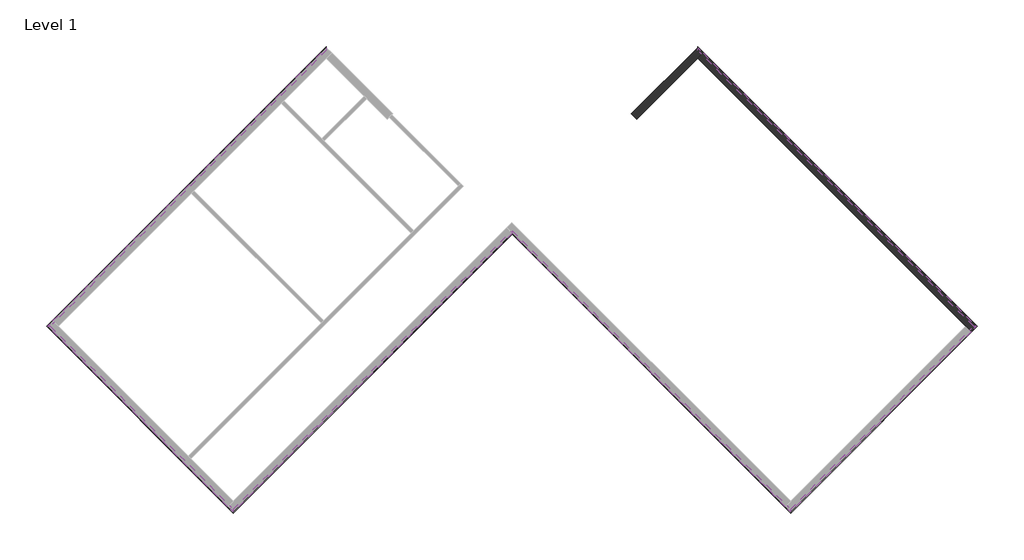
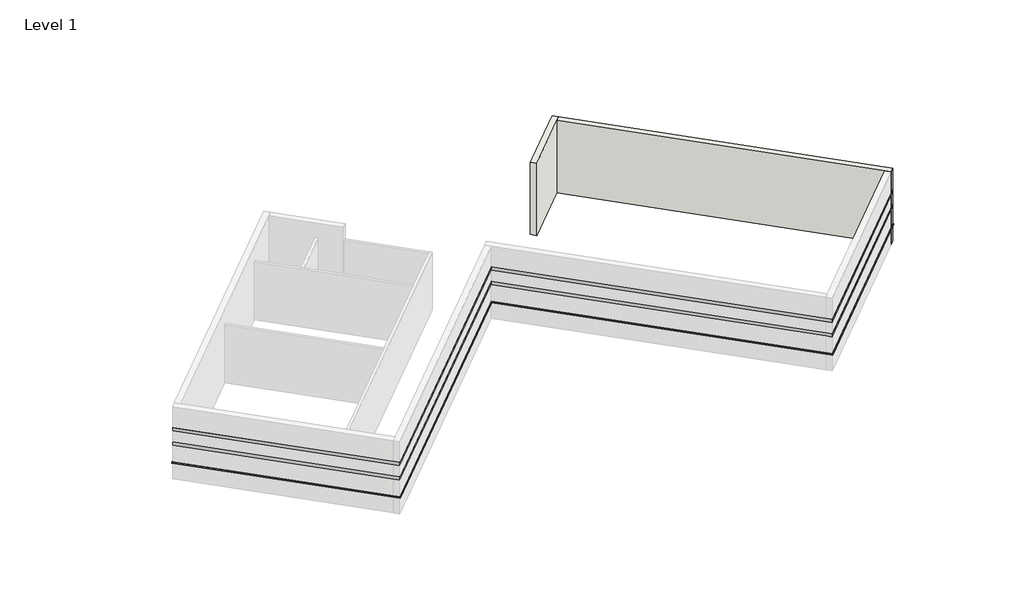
# One storey, part 2 of 2: 18 proxies, 2 walls.
"""IFC4 building model written with IfcOpenShell, lengths in millimetres."""

from ifc_helpers import new_model, si_unit, frame, origin, place, context, project, spatial, polyline, circle_curve, faceted_brep, element, save
from ifc_brep_helpers import plane_surface, cylinder_surface, revolved_surface, advanced_brep

model = new_model("IFC4")

# Units and contexts
model_context = context("Model", 3, world=origin())
ifc_project = project(units=[si_unit("LENGTHUNIT", "METRE", prefix="MILLI")], contexts=[model_context])

# Site, building, storey
site = spatial("IfcSite", under=ifc_project)
building = spatial("IfcBuilding", under=site)
storey = spatial("IfcBuildingStorey", under=building, Name="Level 1", Elevation=0.0)

# Proxies
placement = place(None, origin())
element("IfcBuildingElementProxy", 1, Name="Wall Sweeps", at=placement, inside=storey, context=model_context, shape_type="Brep", body=[
    faceted_brep([(5178.0352806, 10812.8792927, 1085.85), (5178.0352806, 10943.0930065, 1085.85), (5178.0352806, 10992.4844151, 1041.4), (5178.0352806, 10992.4844151, 1016.0), (5178.0352806, 10812.8792927, 1016.0), (17979.3903812, -1988.4758079, 1085.85), (17979.3903812, -1988.4758079, 1016.0), (18158.9955036, -1988.4758079, 1016.0), (18158.9955036, -1988.4758079, 1041.4), (18109.604095, -1988.4758079, 1085.85), (5362.1305311, 10628.7840422, 1085.85), (5362.1305311, 10628.7840422, 1016.0)], [[[0, 1, 2, 3, 4]], [[5, 6, 7, 8, 9]], [[1, 0, 10, 5, 9]], [[2, 1, 9, 8]], [[3, 2, 8, 7]], [[4, 3, 7, 6, 11]], [[0, 4, 11, 6, 5, 10]]]),
])
element("IfcBuildingElementProxy", 2, Name="Wall Sweeps", at=placement, inside=storey, context=model_context, shape_type="Brep", body=[
    faceted_brep([(5178.0352806, 10943.0930065, 2336.8), (5178.0352806, 10943.0930065, 2133.6), (5178.0352806, 10812.8792927, 2133.6), (5178.0352806, 10812.8792927, 2336.8), (18109.604095, -1988.4758079, 2336.8), (17979.3903812, -1988.4758079, 2336.8), (17979.3903812, -1988.4758079, 2133.6), (18109.604095, -1988.4758079, 2133.6), (5427.237388, 10693.8908991, 2336.8), (5427.237388, 10693.8908991, 2133.6), (5362.1305311, 10628.7840422, 2133.6), (5362.1305311, 10628.7840422, 2336.8)], [[[0, 1, 2, 3]], [[4, 5, 6, 7]], [[1, 0, 8, 4, 7, 9]], [[2, 1, 9, 7, 6, 10]], [[3, 2, 10, 6, 5, 11]], [[0, 3, 11, 5, 4, 8]]]),
])
element("IfcBuildingElementProxy", 3, Name="Wall Sweeps", at=placement, inside=storey, context=model_context, shape_type="Brep", body=[
    faceted_brep([(5178.0352806, 10943.0930065, 3251.2), (5178.0352806, 10943.0930065, 3048.0), (5178.0352806, 10812.8792927, 3048.0), (5178.0352806, 10812.8792927, 3251.2), (18109.604095, -1988.4758079, 3251.2), (17979.3903812, -1988.4758079, 3251.2), (17979.3903812, -1988.4758079, 3048.0), (18109.604095, -1988.4758079, 3048.0), (5427.237388, 10693.8908991, 3251.2), (5427.237388, 10693.8908991, 3048.0), (5362.1305311, 10628.7840422, 3048.0), (5362.1305311, 10628.7840422, 3251.2)], [[[0, 1, 2, 3]], [[4, 5, 6, 7]], [[1, 0, 8, 4, 7, 9]], [[2, 1, 9, 7, 6, 10]], [[3, 2, 10, 6, 5, 11]], [[0, 3, 11, 5, 4, 8]]]),
])
element("IfcBuildingElementProxy", 4, Name="Wall Sweeps", at=placement, inside=storey, context=model_context, shape_type="Brep", body=[
    faceted_brep([(17979.3903812, -1988.4758079, 1085.85), (18109.604095, -1988.4758079, 1085.85), (18158.9955036, -1988.4758079, 1041.4), (18158.9955036, -1988.4758079, 1016.0), (17979.3903812, -1988.4758079, 1016.0), (9488.5582187, -10479.3079703, 1085.85), (9488.5582187, -10479.3079703, 1016.0), (9488.5582187, -10658.9130928, 1016.0), (9488.5582187, -10658.9130928, 1041.4), (9488.5582187, -10609.5216841, 1085.85), (17795.2951307, -2172.5710583, 1085.85), (17795.2951307, -2172.5710583, 1016.0)], [[[0, 1, 2, 3, 4]], [[5, 6, 7, 8, 9]], [[1, 0, 10, 5, 9]], [[2, 1, 9, 8]], [[3, 2, 8, 7]], [[4, 3, 7, 6, 11]], [[0, 4, 11, 6, 5, 10]]]),
])
element("IfcBuildingElementProxy", 5, Name="Wall Sweeps", at=placement, inside=storey, context=model_context, shape_type="Brep", body=[
    faceted_brep([(18109.604095, -1988.4758079, 2336.8), (18109.604095, -1988.4758079, 2133.6), (17979.3903812, -1988.4758079, 2133.6), (17979.3903812, -1988.4758079, 2336.8), (9488.5582187, -10609.5216841, 2336.8), (9488.5582187, -10479.3079703, 2336.8), (9488.5582187, -10479.3079703, 2133.6), (9488.5582187, -10609.5216841, 2133.6), (17860.4019876, -2237.6779152, 2336.8), (17860.4019876, -2237.6779152, 2133.6), (17795.2951307, -2172.5710583, 2133.6), (17795.2951307, -2172.5710583, 2336.8)], [[[0, 1, 2, 3]], [[4, 5, 6, 7]], [[1, 0, 8, 4, 7, 9]], [[2, 1, 9, 7, 6, 10]], [[3, 2, 10, 6, 5, 11]], [[0, 3, 11, 5, 4, 8]]]),
])
element("IfcBuildingElementProxy", 6, Name="Wall Sweeps", at=placement, inside=storey, context=model_context, shape_type="Brep", body=[
    faceted_brep([(18109.604095, -1988.4758079, 3251.2), (18109.604095, -1988.4758079, 3048.0), (17979.3903812, -1988.4758079, 3048.0), (17979.3903812, -1988.4758079, 3251.2), (9488.5582187, -10609.5216841, 3251.2), (9488.5582187, -10479.3079703, 3251.2), (9488.5582187, -10479.3079703, 3048.0), (9488.5582187, -10609.5216841, 3048.0), (17860.4019876, -2237.6779152, 3251.2), (17860.4019876, -2237.6779152, 3048.0), (17795.2951307, -2172.5710583, 3048.0), (17795.2951307, -2172.5710583, 3251.2)], [[[0, 1, 2, 3]], [[4, 5, 6, 7]], [[1, 0, 8, 4, 7, 9]], [[2, 1, 9, 7, 6, 10]], [[3, 2, 10, 6, 5, 11]], [[0, 3, 11, 5, 4, 8]]]),
])
element("IfcBuildingElementProxy", 7, Name="Wall Sweeps", at=placement, inside=storey, context=model_context, shape_type="Brep", body=[
    faceted_brep([(9488.5582187, -10479.3079703, 1085.85), (9488.5582187, -10609.5216841, 1085.85), (9488.5582187, -10658.9130928, 1041.4), (9488.5582187, -10658.9130928, 1016.0), (9488.5582187, -10479.3079703, 1016.0), (-3443.0105956, 2452.260844, 1085.85), (-3443.0105956, 2452.260844, 1016.0), (-3443.0105956, 2272.6557216, 1016.0), (-3443.0105956, 2272.6557216, 1041.4), (-3443.0105956, 2322.0471303, 1085.85), (9304.4629682, -10295.2127199, 1085.85), (9304.4629682, -10295.2127199, 1016.0)], [[[0, 1, 2, 3, 4]], [[5, 6, 7, 8, 9]], [[1, 0, 10, 5, 9]], [[2, 1, 9, 8]], [[3, 2, 8, 7]], [[4, 3, 7, 6, 11]], [[0, 4, 11, 6, 5, 10]]]),
])
element("IfcBuildingElementProxy", 8, Name="Wall Sweeps", at=placement, inside=storey, context=model_context, shape_type="Brep", body=[
    faceted_brep([(9488.5582187, -10609.5216841, 2336.8), (9488.5582187, -10609.5216841, 2133.6), (9488.5582187, -10479.3079703, 2133.6), (9488.5582187, -10479.3079703, 2336.8), (-3443.0105956, 2322.0471303, 2336.8), (-3443.0105956, 2452.260844, 2336.8), (-3443.0105956, 2452.260844, 2133.6), (-3443.0105956, 2322.0471303, 2133.6), (9239.3561114, -10360.3195767, 2336.8), (9239.3561114, -10360.3195767, 2133.6), (9304.4629682, -10295.2127199, 2133.6), (9304.4629682, -10295.2127199, 2336.8)], [[[0, 1, 2, 3]], [[4, 5, 6, 7]], [[1, 0, 8, 4, 7, 9]], [[2, 1, 9, 7, 6, 10]], [[3, 2, 10, 6, 5, 11]], [[0, 3, 11, 5, 4, 8]]]),
])
element("IfcBuildingElementProxy", 9, Name="Wall Sweeps", at=placement, inside=storey, context=model_context, shape_type="Brep", body=[
    faceted_brep([(9488.5582187, -10609.5216841, 3251.2), (9488.5582187, -10609.5216841, 3048.0), (9488.5582187, -10479.3079703, 3048.0), (9488.5582187, -10479.3079703, 3251.2), (-3443.0105956, 2322.0471303, 3251.2), (-3443.0105956, 2452.260844, 3251.2), (-3443.0105956, 2452.260844, 3048.0), (-3443.0105956, 2322.0471303, 3048.0), (9239.3561114, -10360.3195767, 3251.2), (9239.3561114, -10360.3195767, 3048.0), (9304.4629682, -10295.2127199, 3048.0), (9304.4629682, -10295.2127199, 3251.2)], [[[0, 1, 2, 3]], [[4, 5, 6, 7]], [[1, 0, 8, 4, 7, 9]], [[2, 1, 9, 7, 6, 10]], [[3, 2, 10, 6, 5, 11]], [[0, 3, 11, 5, 4, 8]]]),
])
element("IfcBuildingElementProxy", 10, Name="Wall Sweeps", at=placement, inside=storey, context=model_context, shape_type="Brep", body=[
    faceted_brep([(-3443.0105956, 2452.260844, 1085.85), (-3443.0105956, 2322.0471303, 1085.85), (-3443.0105956, 2272.6557216, 1041.4), (-3443.0105956, 2272.6557216, 1016.0), (-3443.0105956, 2452.260844, 1016.0), (-16374.5794099, -10479.3079703, 1085.85), (-16374.5794099, -10479.3079703, 1016.0), (-16374.5794099, -10658.9130928, 1016.0), (-16374.5794099, -10658.9130928, 1041.4), (-16374.5794099, -10609.5216841, 1085.85), (-3508.1174525, 2387.1539871, 1085.85), (-3508.1174525, 2387.1539871, 1016.0)], [[[0, 1, 2, 3, 4]], [[5, 6, 7, 8, 9]], [[1, 0, 10, 5, 9]], [[2, 1, 9, 8]], [[3, 2, 8, 7]], [[4, 3, 7, 6, 11]], [[0, 4, 11, 6, 5, 10]]]),
])
element("IfcBuildingElementProxy", 11, Name="Wall Sweeps", at=placement, inside=storey, context=model_context, shape_type="Brep", body=[
    faceted_brep([(-3443.0105956, 2322.0471303, 2336.8), (-3443.0105956, 2322.0471303, 2133.6), (-3443.0105956, 2452.260844, 2133.6), (-3443.0105956, 2452.260844, 2336.8), (-16374.5794099, -10609.5216841, 2336.8), (-16374.5794099, -10479.3079703, 2336.8), (-16374.5794099, -10479.3079703, 2133.6), (-16374.5794099, -10609.5216841, 2133.6), (-3508.1174525, 2387.1539871, 2133.6), (-3508.1174525, 2387.1539871, 2336.8)], [[[0, 1, 2, 3]], [[4, 5, 6, 7]], [[1, 0, 4, 7]], [[2, 1, 7, 6, 8]], [[3, 2, 8, 6, 5, 9]], [[0, 3, 9, 5, 4]]]),
])
element("IfcBuildingElementProxy", 12, Name="Wall Sweeps", at=placement, inside=storey, context=model_context, shape_type="Brep", body=[
    faceted_brep([(-3443.0105956, 2322.0471303, 3251.2), (-3443.0105956, 2322.0471303, 3048.0), (-3443.0105956, 2452.260844, 3048.0), (-3443.0105956, 2452.260844, 3251.2), (-16374.5794099, -10609.5216841, 3251.2), (-16374.5794099, -10479.3079703, 3251.2), (-16374.5794099, -10479.3079703, 3048.0), (-16374.5794099, -10609.5216841, 3048.0), (-3508.1174525, 2387.1539871, 3048.0), (-3508.1174525, 2387.1539871, 3251.2)], [[[0, 1, 2, 3]], [[4, 5, 6, 7]], [[1, 0, 4, 7]], [[2, 1, 7, 6, 8]], [[3, 2, 8, 6, 5, 9]], [[0, 3, 9, 5, 4]]]),
])
element("IfcBuildingElementProxy", 13, Name="Wall Sweeps", at=placement, inside=storey, context=model_context, shape_type="Brep", body=[
    faceted_brep([(-16374.5794099, -10479.3079703, 1085.85), (-16374.5794099, -10609.5216841, 1085.85), (-16374.5794099, -10658.9130928, 1041.4), (-16374.5794099, -10658.9130928, 1016.0), (-16374.5794099, -10479.3079703, 1016.0), (-24865.4115724, -1988.4758079, 1085.85), (-24865.4115724, -1988.4758079, 1016.0), (-25045.0166948, -1988.4758079, 1016.0), (-25045.0166948, -1988.4758079, 1041.4), (-24995.6252862, -1988.4758079, 1085.85), (-16558.6746604, -10295.2127199, 1085.85), (-16558.6746604, -10295.2127199, 1016.0)], [[[0, 1, 2, 3, 4]], [[5, 6, 7, 8, 9]], [[1, 0, 10, 5, 9]], [[2, 1, 9, 8]], [[3, 2, 8, 7]], [[4, 3, 7, 6, 11]], [[0, 4, 11, 6, 5, 10]]]),
])
element("IfcBuildingElementProxy", 14, Name="Wall Sweeps", at=placement, inside=storey, context=model_context, shape_type="Brep", body=[
    faceted_brep([(-16374.5794099, -10609.5216841, 2336.8), (-16374.5794099, -10609.5216841, 2133.6), (-16374.5794099, -10479.3079703, 2133.6), (-16374.5794099, -10479.3079703, 2336.8), (-24995.6252862, -1988.4758079, 2336.8), (-24865.4115724, -1988.4758079, 2336.8), (-24865.4115724, -1988.4758079, 2133.6), (-24995.6252862, -1988.4758079, 2133.6), (-16623.7815173, -10360.3195767, 2336.8), (-16623.7815173, -10360.3195767, 2133.6), (-16558.6746604, -10295.2127199, 2133.6), (-16558.6746604, -10295.2127199, 2336.8)], [[[0, 1, 2, 3]], [[4, 5, 6, 7]], [[1, 0, 8, 4, 7, 9]], [[2, 1, 9, 7, 6, 10]], [[3, 2, 10, 6, 5, 11]], [[0, 3, 11, 5, 4, 8]]]),
])
element("IfcBuildingElementProxy", 15, Name="Wall Sweeps", at=placement, inside=storey, context=model_context, shape_type="Brep", body=[
    faceted_brep([(-16374.5794099, -10609.5216841, 3251.2), (-16374.5794099, -10609.5216841, 3048.0), (-16374.5794099, -10479.3079703, 3048.0), (-16374.5794099, -10479.3079703, 3251.2), (-24995.6252862, -1988.4758079, 3251.2), (-24865.4115724, -1988.4758079, 3251.2), (-24865.4115724, -1988.4758079, 3048.0), (-24995.6252862, -1988.4758079, 3048.0), (-16623.7815173, -10360.3195767, 3251.2), (-16623.7815173, -10360.3195767, 3048.0), (-16558.6746604, -10295.2127199, 3048.0), (-16558.6746604, -10295.2127199, 3251.2)], [[[0, 1, 2, 3]], [[4, 5, 6, 7]], [[1, 0, 8, 4, 7, 9]], [[2, 1, 9, 7, 6, 10]], [[3, 2, 10, 6, 5, 11]], [[0, 3, 11, 5, 4, 8]]]),
])
element("IfcBuildingElementProxy", 16, Name="Wall Sweeps", at=placement, inside=storey, context=model_context, shape_type="Brep", body=[
    faceted_brep([(-24865.4115724, -1988.4758079, 1085.85), (-24995.6252862, -1988.4758079, 1085.85), (-25045.0166948, -1988.4758079, 1041.4), (-25045.0166948, -1988.4758079, 1016.0), (-24865.4115724, -1988.4758079, 1016.0), (-12064.0564718, 10812.8792927, 1085.85), (-12064.0564718, 10812.8792927, 1016.0), (-12064.0564718, 10992.4844151, 1016.0), (-12064.0564718, 10992.4844151, 1041.4), (-12064.0564718, 10943.0930065, 1085.85), (-24681.3163219, -1804.3805574, 1085.85), (-24681.3163219, -1804.3805574, 1016.0)], [[[0, 1, 2, 3, 4]], [[5, 6, 7, 8, 9]], [[1, 0, 10, 5, 9]], [[2, 1, 9, 8]], [[3, 2, 8, 7]], [[4, 3, 7, 6, 11]], [[0, 4, 11, 6, 5, 10]]]),
])
element("IfcBuildingElementProxy", 17, Name="Wall Sweeps", at=placement, inside=storey, context=model_context, shape_type="Brep", body=[
    faceted_brep([(-24995.6252862, -1988.4758079, 2336.8), (-24995.6252862, -1988.4758079, 2133.6), (-24865.4115724, -1988.4758079, 2133.6), (-24865.4115724, -1988.4758079, 2336.8), (-12064.0564718, 10943.0930065, 2336.8), (-12064.0564718, 10812.8792927, 2336.8), (-12064.0564718, 10812.8792927, 2133.6), (-12064.0564718, 10943.0930065, 2133.6), (-24746.4231788, -1739.2737005, 2336.8), (-24746.4231788, -1739.2737005, 2133.6), (-24681.3163219, -1804.3805574, 2133.6), (-24681.3163219, -1804.3805574, 2336.8)], [[[0, 1, 2, 3]], [[4, 5, 6, 7]], [[1, 0, 8, 4, 7, 9]], [[2, 1, 9, 7, 6, 10]], [[3, 2, 10, 6, 5, 11]], [[0, 3, 11, 5, 4, 8]]]),
])
element("IfcBuildingElementProxy", 18, Name="Wall Sweeps", at=placement, inside=storey, context=model_context, shape_type="Brep", body=[
    faceted_brep([(-24995.6252862, -1988.4758079, 3251.2), (-24995.6252862, -1988.4758079, 3048.0), (-24865.4115724, -1988.4758079, 3048.0), (-24865.4115724, -1988.4758079, 3251.2), (-12064.0564718, 10943.0930065, 3251.2), (-12064.0564718, 10812.8792927, 3251.2), (-12064.0564718, 10812.8792927, 3048.0), (-12064.0564718, 10943.0930065, 3048.0), (-24746.4231788, -1739.2737005, 3251.2), (-24746.4231788, -1739.2737005, 3048.0), (-24681.3163219, -1804.3805574, 3048.0), (-24681.3163219, -1804.3805574, 3251.2)], [[[0, 1, 2, 3]], [[4, 5, 6, 7]], [[1, 0, 8, 4, 7, 9]], [[2, 1, 9, 7, 6, 10]], [[3, 2, 10, 6, 5, 11]], [[0, 3, 11, 5, 4, 8]]]),
])

# Walls
element("IfcWall", 19, ObjectType="Exterior - Split Face and CMU on Mtl. Stud", at=placement, inside=storey, context=model_context, shape_type="AdvancedBrep", body=[
    advanced_brep(
    [(2346.973313, 7613.6268242, 0.0), (5178.0352806, 10444.6887918, 0.0), (5427.237388, 10693.8908991, 0.0), (5427.237388, 10693.8908991, 1016.0), (5362.1305311, 10628.7840422, 1016.0), (5362.1305311, 10628.7840422, 1085.85), (5427.237388, 10693.8908991, 1085.85), (5427.237388, 10693.8908991, 2133.6), (5362.1305311, 10628.7840422, 2133.6), (5362.1305311, 10628.7840422, 2336.8), (5427.237388, 10693.8908991, 2336.8), (5427.237388, 10693.8908991, 3048.0), (5362.1305311, 10628.7840422, 3048.0), (5362.1305311, 10628.7840422, 3251.2), (5427.237388, 10693.8908991, 3251.2), (5427.237388, 10693.8908991, 4572.0), (5178.0352806, 10444.6887918, 4572.0), (2346.973313, 7613.6268242, 4572.0), (2102.2428123, 7867.3005381, 4572.0), (2351.4472641, 8116.50499, 4572.0), (5178.0352806, 10943.0930065, 4572.0), (5178.0352806, 10943.0930065, 3251.2), (2351.4472641, 8116.50499, 3251.2), (2286.3398143, 8051.3975402, 3251.2), (2286.3398143, 8051.3975402, 3048.0), (2351.4472641, 8116.50499, 3048.0), (5178.0352806, 10943.0930065, 3048.0), (5178.0352806, 10943.0930065, 2336.8), (2351.4472641, 8116.50499, 2336.8), (2286.3398143, 8051.3975402, 2336.8), (2286.3398143, 8051.3975402, 2133.6), (2351.4472641, 8116.50499, 2133.6), (5178.0352806, 10943.0930065, 2133.6), (5178.0352806, 10943.0930065, 1085.85), (2351.4472641, 8116.50499, 1085.85), (2286.3398143, 8051.3975402, 1085.85), (2286.3398143, 8051.3975402, 1016.0), (2351.4472641, 8116.50499, 1016.0), (5178.0352806, 10943.0930065, 1016.0), (5178.0352806, 10943.0930065, 0.0), (2351.4472641, 8116.50499, 0.0), (2102.2428123, 7867.3005381, 0.0), (2167.2578198, 7802.1018319, 0.0), (5243.1421375, 10877.9861496, 0.0), (2351.3577606, 7986.2017727, 1016.0), (2351.3577606, 7986.2017727, 1085.85), (5178.0352806, 10812.8792927, 1085.85), (5178.0352806, 10812.8792927, 1016.0), (2351.3577606, 7986.2017727, 2133.6), (2351.3577606, 7986.2017727, 2336.8), (5178.0352806, 10812.8792927, 2336.8), (5178.0352806, 10812.8792927, 2133.6), (5178.0352806, 10812.8792927, 3048.0), (2351.3577606, 7986.2017727, 3048.0), (2351.3577606, 7986.2017727, 3251.2), (5178.0352806, 10812.8792927, 3251.2)],
    [
        (0, 1),
        (1, 2),
        (2, 3),
        (3, 4),
        (4, 5),
        (5, 6),
        (6, 7),
        (7, 8),
        (8, 9),
        (9, 10),
        (10, 11),
        (11, 12),
        (12, 13),
        (13, 14),
        (14, 15),
        (15, 16),
        (16, 17),
        (17, 0),
        (18, 19),
        (19, 20),
        (20, 21),
        (21, 22),
        (22, 23),
        (23, 24),
        (24, 25),
        (25, 26),
        (26, 27),
        (27, 28),
        (28, 29),
        (29, 30),
        (30, 31),
        (31, 32),
        (32, 33),
        (33, 34),
        (34, 35),
        (35, 36),
        (36, 37),
        (37, 38),
        (38, 39),
        (39, 40),
        (40, 41),
        (41, 18),
        (15, 20),
        (18, 17, circle_curve(frame((-3443.0105956, 2272.6557216, 4572.0), z_axis=(0.0, 0.0, -1.0), x_axis=(1.0, 0.0, 0.0)), 7877.175)),
        (0, 42, circle_curve(frame((-3443.0105956, 2272.6557216, 0.0), z_axis=(0.0, 0.0, 1.0), x_axis=(1.0, 0.0, 0.0)), 7877.175)),
        (42, 43),
        (43, 2),
        (44, 45),
        (45, 46),
        (46, 47),
        (47, 44),
        (48, 49),
        (49, 50),
        (50, 51),
        (51, 48),
        (52, 53),
        (53, 54),
        (54, 55),
        (55, 52),
        (14, 21),
        (43, 39),
        (38, 3),
        (6, 33),
        (32, 7),
        (10, 27),
        (26, 11),
        (46, 5),
        (4, 47),
        (50, 9),
        (8, 51),
        (55, 13),
        (12, 52),
        (41, 42, circle_curve(frame((-3443.0105956, 2272.6557216, 0.0), z_axis=(0.0, 0.0, -1.0), x_axis=(1.0, 0.0, 0.0)), 7877.175)),
        (45, 35, circle_curve(frame((-3443.0105956, 2272.6557216, 1085.85), z_axis=(0.0, 0.0, 1.0), x_axis=(-0.7040995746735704, 0.7101012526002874, 0.0)), 8137.525)),
        (36, 44, circle_curve(frame((-3443.0105956, 2272.6557216, 1016.0), z_axis=(0.0, 0.0, -1.0), x_axis=(-0.7040995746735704, 0.7101012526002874, 0.0)), 8137.525)),
        (30, 48, circle_curve(frame((-3443.0105956, 2272.6557216, 2133.6), z_axis=(0.0, 0.0, -1.0), x_axis=(-0.7040995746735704, 0.7101012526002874, 0.0)), 8137.525)),
        (29, 49, circle_curve(frame((-3443.0105956, 2272.6557216, 2336.8), z_axis=(0.0, 0.0, -1.0), x_axis=(-0.7040995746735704, 0.7101012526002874, 0.0)), 8137.525)),
        (24, 53, circle_curve(frame((-3443.0105956, 2272.6557216, 3048.0), z_axis=(0.0, 0.0, -1.0), x_axis=(-0.7040995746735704, 0.7101012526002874, 0.0)), 8137.525)),
        (23, 54, circle_curve(frame((-3443.0105956, 2272.6557216, 3251.2), z_axis=(0.0, 0.0, -1.0), x_axis=(-0.7040995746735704, 0.7101012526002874, 0.0)), 8137.525)),
    ],
    [
        plane_surface(frame((2409.8713313, 7676.5248424, 0.0), z_axis=(0.7071067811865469, -0.7071067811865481, 0.0), x_axis=(0.7071067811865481, 0.7071067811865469, 0.0))),
        plane_surface(frame((2160.6692239, 7925.7269498, 0.0), z_axis=(-0.7071067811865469, 0.7071067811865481, 0.0), x_axis=(-0.7071067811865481, -0.7071067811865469, 0.0))),
        plane_surface(frame((5302.6363343, 10569.2898454, 4572.0), z_axis=(0.0, 0.0, 1.0), x_axis=(-0.707106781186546, 0.7071067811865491, 0.0))),
        plane_surface(frame((2475.22429, 7741.8778012, 0.0), z_axis=(0.0, 0.0, -1.0), x_axis=(-0.7071067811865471, 0.7071067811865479, 0.0))),
        plane_surface(frame((2351.3577606, 7986.2017727, 1016.0), z_axis=(-0.7071067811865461, 0.7071067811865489, 0.0), x_axis=(0.7071067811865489, 0.7071067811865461, 0.0))),
        plane_surface(frame((2351.3577606, 7986.2017727, 2133.6), z_axis=(-0.7071067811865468, 0.7071067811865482, 0.0), x_axis=(0.7071067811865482, 0.7071067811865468, 0.0))),
        plane_surface(frame((2351.3577606, 7986.2017727, 3048.0), z_axis=(-0.7071067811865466, 0.7071067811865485, 0.0), x_axis=(0.7071067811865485, 0.7071067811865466, 0.0))),
        plane_surface(frame((5178.0352806, 10943.0930065, 0.0), z_axis=(0.7071067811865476, 0.7071067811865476, 0.0), x_axis=(-0.7071067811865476, 0.7071067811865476, 0.0))),
        plane_surface(frame((5178.0352806, 10812.8792927, 1016.0), z_axis=(0.7071067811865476, 0.7071067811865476, 0.0), x_axis=(0.7071067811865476, -0.7071067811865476, 0.0))),
        plane_surface(frame((5178.0352806, 10812.8792927, 2133.6), z_axis=(0.7071067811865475, 0.7071067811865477, 0.0), x_axis=(0.7071067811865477, -0.7071067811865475, 0.0))),
        plane_surface(frame((5178.0352806, 10812.8792927, 3048.0), z_axis=(0.7071067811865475, 0.7071067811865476, 0.0), x_axis=(0.7071067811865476, -0.7071067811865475, 0.0))),
        revolved_surface(polyline([(4434.1644044, 2272.6557216, 0.0), (4434.1644044, 2272.6557216, 4572.0)]), (-3443.0105956, 2272.6557216, 0.0), (0.0, 0.0, -1.0)),
        plane_surface(frame((0.0, 0.0, 0.0), z_axis=(0.0, 0.0, -1.0), x_axis=(1.0, 0.0, 0.0))),
        plane_surface(frame((-3443.0105956, 2272.6557216, 1085.85), z_axis=(0.0, 0.0, -1.0), x_axis=(-0.7040995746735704, 0.7101012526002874, 0.0))),
        plane_surface(frame((-3443.0105956, 2272.6557216, 1016.0), z_axis=(0.0, 0.0, 1.0), x_axis=(-0.7040995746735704, 0.7101012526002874, 0.0))),
        cylinder_surface(frame((-3443.0105956, 2272.6557216, 1016.0), z_axis=(0.0, 0.0, -1.0), x_axis=(-0.7040995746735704, 0.7101012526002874, 0.0)), 8137.525),
        plane_surface(frame((-3443.0105956, 2272.6557216, 2133.6), z_axis=(0.0, 0.0, 1.0), x_axis=(-0.7040995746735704, 0.7101012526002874, 0.0))),
        cylinder_surface(frame((-3443.0105956, 2272.6557216, 2133.6), z_axis=(0.0, 0.0, -1.0), x_axis=(-0.7040995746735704, 0.7101012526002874, 0.0)), 8137.525),
        plane_surface(frame((-3443.0105956, 2272.6557216, 2336.8), z_axis=(0.0, 0.0, -1.0), x_axis=(-0.7040995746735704, 0.7101012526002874, 0.0))),
        plane_surface(frame((-3443.0105956, 2272.6557216, 3048.0), z_axis=(0.0, 0.0, 1.0), x_axis=(-0.7040995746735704, 0.7101012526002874, 0.0))),
        cylinder_surface(frame((-3443.0105956, 2272.6557216, 3048.0), z_axis=(0.0, 0.0, -1.0), x_axis=(-0.7040995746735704, 0.7101012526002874, 0.0)), 8137.525),
        plane_surface(frame((-3443.0105956, 2272.6557216, 3251.2), z_axis=(0.0, 0.0, -1.0), x_axis=(-0.7040995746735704, 0.7101012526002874, 0.0))),
    ],
    [
        (0, [[1, 2, 3, 4, 5, 6, 7, 8, 9, 10, 11, 12, 13, 14, 15, 16, 17, 18]]),
        (1, [[19, 20, 21, 22, 23, 24, 25, 26, 27, 28, 29, 30, 31, 32, 33, 34, 35, 36, 37, 38, 39, 40, 41, 42]]),
        (2, [[-17, -16, 43, -20, -19, 44]]),
        (3, [[-2, -1, 45, 46, 47]]),
        (4, [[48, 49, 50, 51]]),
        (5, [[52, 53, 54, 55]]),
        (6, [[56, 57, 58, 59]]),
        (7, [[-43, -15, 60, -21]]),
        (7, [[-47, 61, -39, 62, -3]]),
        (7, [[-7, 63, -33, 64]]),
        (7, [[65, -27, 66, -11]]),
        (8, [[-50, 67, -5, 68]]),
        (9, [[-54, 69, -9, 70]]),
        (10, [[-59, 71, -13, 72]]),
        (11, [[-18, -44, -42, 73, -45]]),
        (12, [[-41, -40, -61, -46, -73]]),
        (13, [[-49, 74, -35, -34, -63, -6, -67]]),
        (14, [[-51, -68, -4, -62, -38, -37, 75]]),
        (15, [[-48, -75, -36, -74]]),
        (16, [[-55, -70, -8, -64, -32, -31, 76]]),
        (17, [[-52, -76, -30, 77]]),
        (18, [[-53, -77, -29, -28, -65, -10, -69]]),
        (19, [[-56, -72, -12, -66, -26, -25, 78]]),
        (20, [[-57, -78, -24, 79]]),
        (21, [[-58, -79, -23, -22, -60, -14, -71]]),
    ],
),
])
element("IfcWall", 20, ObjectType="Exterior - Split Face and CMU on Mtl. Stud", at=placement, inside=storey, context=model_context, shape_type="Brep", body=[
    faceted_brep([(5178.0352806, 10444.6887918, 0.0), (17611.1998802, -1988.4758079, 0.0), (17860.4019876, -2237.6779152, 0.0), (17860.4019876, -2237.6779152, 1016.0), (17795.2951307, -2172.5710583, 1016.0), (17795.2951307, -2172.5710583, 1085.85), (17860.4019876, -2237.6779152, 1085.85), (17860.4019876, -2237.6779152, 2133.6), (17795.2951307, -2172.5710583, 2133.6), (17795.2951307, -2172.5710583, 2336.8), (17860.4019876, -2237.6779152, 2336.8), (17860.4019876, -2237.6779152, 3048.0), (17795.2951307, -2172.5710583, 3048.0), (17795.2951307, -2172.5710583, 3251.2), (17860.4019876, -2237.6779152, 3251.2), (17860.4019876, -2237.6779152, 4572.0), (17611.1998802, -1988.4758079, 4572.0), (5178.0352806, 10444.6887918, 4572.0), (5427.237388, 10693.8908991, 4572.0), (18109.604095, -1988.4758079, 4572.0), (18109.604095, -1988.4758079, 3251.2), (5427.237388, 10693.8908991, 3251.2), (18109.604095, -1988.4758079, 0.0), (5427.237388, 10693.8908991, 0.0), (5427.237388, 10693.8908991, 1016.0), (18109.604095, -1988.4758079, 1016.0), (18109.604095, -1988.4758079, 1085.85), (5427.237388, 10693.8908991, 1085.85), (5427.237388, 10693.8908991, 2133.6), (18109.604095, -1988.4758079, 2133.6), (18109.604095, -1988.4758079, 2336.8), (5427.237388, 10693.8908991, 2336.8), (5427.237388, 10693.8908991, 3048.0), (18109.604095, -1988.4758079, 3048.0), (5362.1305311, 10628.7840422, 0.0), (18044.4972381, -2053.5826647, 0.0), (17979.3903812, -1988.4758079, 1016.0), (5362.1305311, 10628.7840422, 1016.0), (5362.1305311, 10628.7840422, 1085.85), (17979.3903812, -1988.4758079, 1085.85), (17979.3903812, -1988.4758079, 2133.6), (5362.1305311, 10628.7840422, 2133.6), (5362.1305311, 10628.7840422, 2336.8), (17979.3903812, -1988.4758079, 2336.8), (17979.3903812, -1988.4758079, 3251.2), (17979.3903812, -1988.4758079, 3048.0), (5362.1305311, 10628.7840422, 3048.0), (5362.1305311, 10628.7840422, 3251.2)], [[[0, 1, 2, 3, 4, 5, 6, 7, 8, 9, 10, 11, 12, 13, 14, 15, 16, 17]], [[18, 19, 20, 21]], [[22, 23, 24, 25]], [[26, 27, 28, 29]], [[30, 31, 32, 33]], [[17, 16, 15, 19, 18]], [[2, 1, 0, 34, 35]], [[36, 37, 38, 39]], [[40, 41, 42, 43]], [[44, 45, 46, 47]], [[0, 17, 18, 21, 47, 46, 32, 31, 42, 41, 28, 27, 38, 37, 24, 23, 34]], [[23, 22, 35, 34]], [[39, 38, 27, 26, 6, 5]], [[37, 36, 4, 3, 25, 24]], [[41, 40, 8, 7, 29, 28]], [[43, 42, 31, 30, 10, 9]], [[46, 45, 12, 11, 33, 32]], [[13, 44, 47, 21, 20, 14]], [[19, 15, 14, 20]], [[2, 35, 22, 25, 3]], [[6, 26, 29, 7]], [[10, 30, 33, 11]], [[36, 39, 5, 4]], [[40, 43, 9, 8]], [[45, 44, 13, 12]]]),
])

save(model, "model.ifc")
